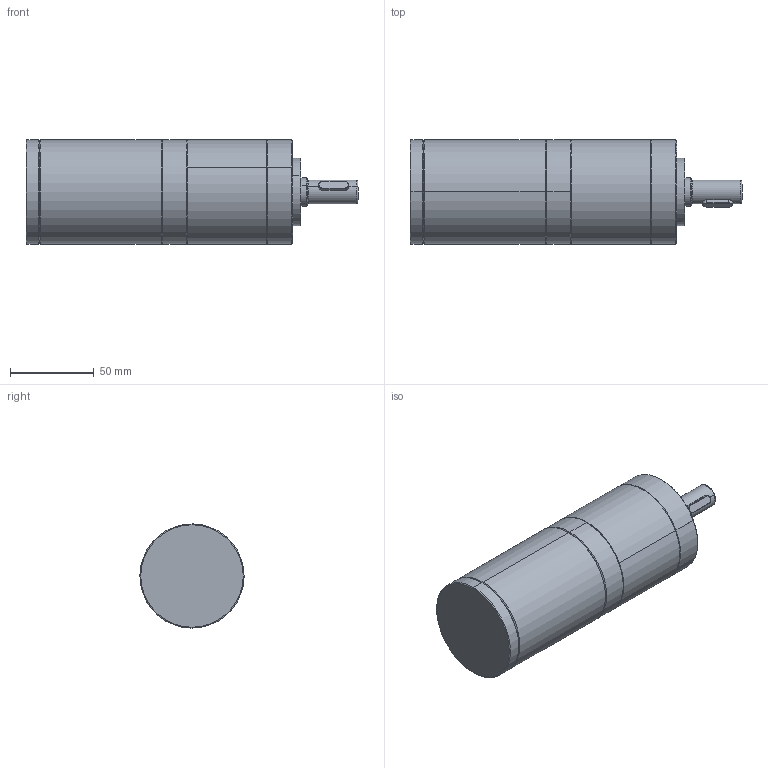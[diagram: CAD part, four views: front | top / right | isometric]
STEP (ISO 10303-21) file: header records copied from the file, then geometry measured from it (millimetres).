
FILE_DESCRIPTION (( 'STEP AP203' ), '1' );
FILE_NAME ('62BLD60W熬厒掀媼撰淕儂.STEP', '2021-07-16T03:09:50', ( '' ), ( '' ), 'SwSTEP 2.0', 'SolidWorks 2021', '' );
FILE_SCHEMA (( 'CONFIG_CONTROL_DESIGN' ));
Length unit declared in the file: millimetre
Products named in the file (3): 62; 62PN媼撰; 62BLD60W熬厒掀媼撰淕儂
Assembly tree (2 placements, depth 2):
  62BLD60W熬厒掀媼撰淕儂
    62
    62PN媼撰
Bounding box: 197.7 x 62 x 62 mm (x, y, z)
Volume: 482340.1 mm3; surface area: 47939.4 mm2
Topology: 2 solids, 2 shells, 157 faces, 349 edges, 205 vertices
Faces by surface type: plane 51, cylinder 48, cone 44, bspline 12, torus 2
Entity records: 4900 total; most frequent: CARTESIAN_POINT 1154, DIRECTION 771, ORIENTED_EDGE 678, EDGE_CURVE 339, AXIS2_PLACEMENT_3D 298, VERTEX_POINT 205, EDGE_LOOP 176, VECTOR 175
